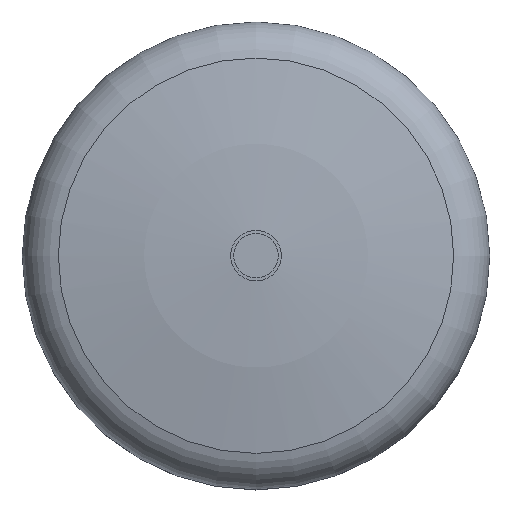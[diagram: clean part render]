
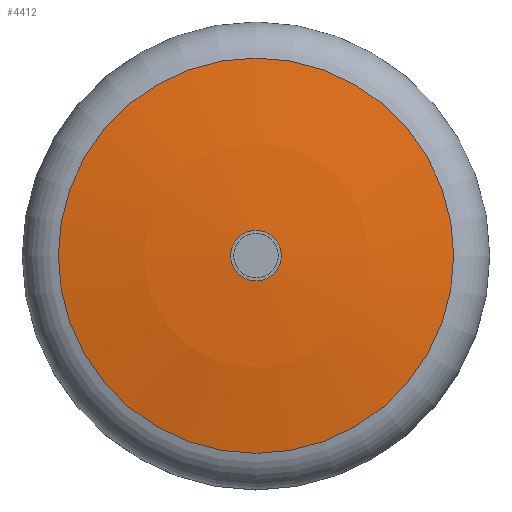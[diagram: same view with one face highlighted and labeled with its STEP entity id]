
A CAD part, top view. The second image highlights one B-rep face of the part: STEP entity #4412.
In plain terms, the highlighted spherical face has radius 704.528 mm.
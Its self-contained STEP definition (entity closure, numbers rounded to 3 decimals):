
#37=SPHERICAL_SURFACE('',#4864,704.528);
#2221=ORIENTED_EDGE('',*,*,#2893,.F.);
#2222=ORIENTED_EDGE('',*,*,#2894,.T.);
#2893=EDGE_CURVE('',#3273,#3273,#3477,.F.);
#2894=EDGE_CURVE('',#3274,#3274,#3478,.T.);
#3273=VERTEX_POINT('',#11336);
#3274=VERTEX_POINT('',#11339);
#3477=CIRCLE('',#4863,17.);
#3478=CIRCLE('',#4865,133.171);
#3787=EDGE_LOOP('',(#2221));
#3788=EDGE_LOOP('',(#2222));
#4101=FACE_BOUND('',#3787,.T.);
#4102=FACE_BOUND('',#3788,.T.);
#4412=ADVANCED_FACE('',(#4101,#4102),#37,.T.);
#4863=AXIS2_PLACEMENT_3D('',#11335,#5853,#5854);
#4864=AXIS2_PLACEMENT_3D('',#11337,#5855,#5856);
#4865=AXIS2_PLACEMENT_3D('',#11338,#5857,#5858);
#5853=DIRECTION('',(0.,0.,-1.));
#5854=DIRECTION('',(-1.,0.,0.));
#5855=DIRECTION('',(0.,0.,1.));
#5856=DIRECTION('',(1.,0.,0.));
#5857=DIRECTION('',(0.,0.,1.));
#5858=DIRECTION('',(1.,0.,0.));
#11335=CARTESIAN_POINT('',(0.,0.,-0.045));
#11336=CARTESIAN_POINT('',(-17.,0.,-0.045));
#11337=CARTESIAN_POINT('',(0.,0.,-704.368));
#11338=CARTESIAN_POINT('',(0.,0.,-12.541));
#11339=CARTESIAN_POINT('',(133.171,0.,-12.541));
